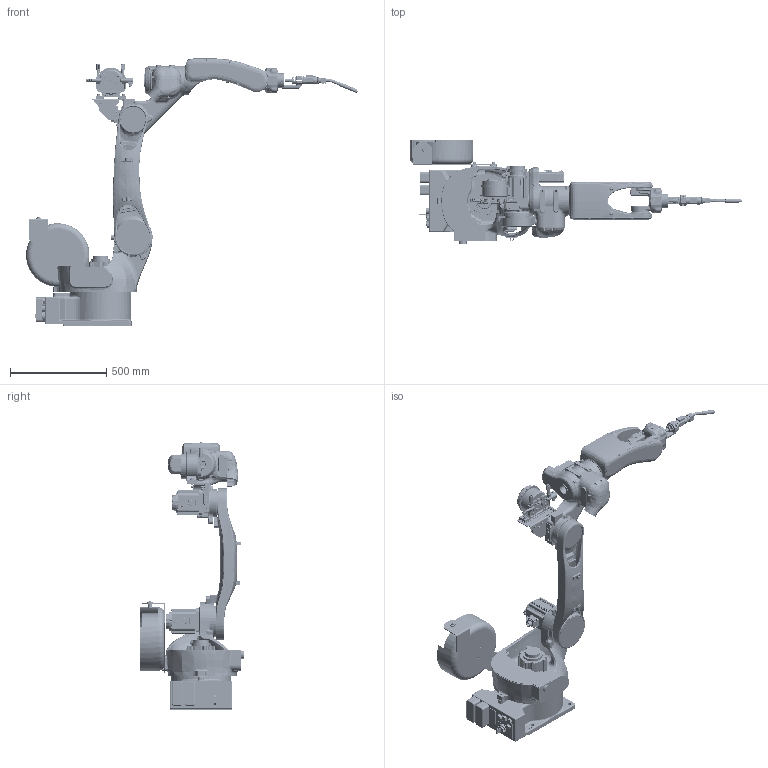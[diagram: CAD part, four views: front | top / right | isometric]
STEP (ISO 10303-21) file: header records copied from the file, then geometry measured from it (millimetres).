
FILE_DESCRIPTION (( 'STEP AP214' ), '1' );
FILE_NAME ('RH14-10 爾諉唳E(俋楷).STEP', '2024-02-26T02:19:26', ( '' ), ( '' ), 'SwSTEP 2.0', 'SolidWorks 2021', '' );
FILE_SCHEMA (( 'AUTOMOTIVE_DESIGN' ));
Length unit declared in the file: millimetre
Products named in the file (10): CR1402 焊丝盘组件全; CR1402 殈窒shell; RH14-10 爾諉唳E(俋楷); CR1404 冞佪儂郪璃; CR1401 菁釱shell; 笢諾350ァ濮爾Л; CR1405MC 苤旋郪璃 shell; CR1403 湮旋shell; CR140600E 腕部组件（焊接版）; CR1404 紵窒shell
Assembly tree (9 placements, depth 2):
  RH14-10 爾諉唳E(俋楷)
    CR1401 菁釱shell
    CR1402 殈窒shell
    CR1403 湮旋shell
    CR1404 紵窒shell
    CR1405MC 苤旋郪璃 shell
    CR140600E 腕部组件（焊接版）
    CR1404 冞佪儂郪璃
    笢諾350ァ濮爾Л
    CR1402 焊丝盘组件全
Bounding box: 1724.35 x 540 x 1387 mm (x, y, z)
Volume: 3268338.8 mm3; surface area: 4772758.7 mm2
Topology: 129 solids, 524 shells, 13758 faces, 37933 edges, 24167 vertices
Faces by surface type: plane 4686, cylinder 4546, bspline 2111, cone 1787, torus 529, sphere 99
Entity records: 716669 total; most frequent: CARTESIAN_POINT 275652, ORIENTED_EDGE 67993, DIRECTION 67889, EDGE_CURVE 37013, AXIS2_PLACEMENT_3D 26038, VERTEX_POINT 24108, LINE 15813, VECTOR 15813
